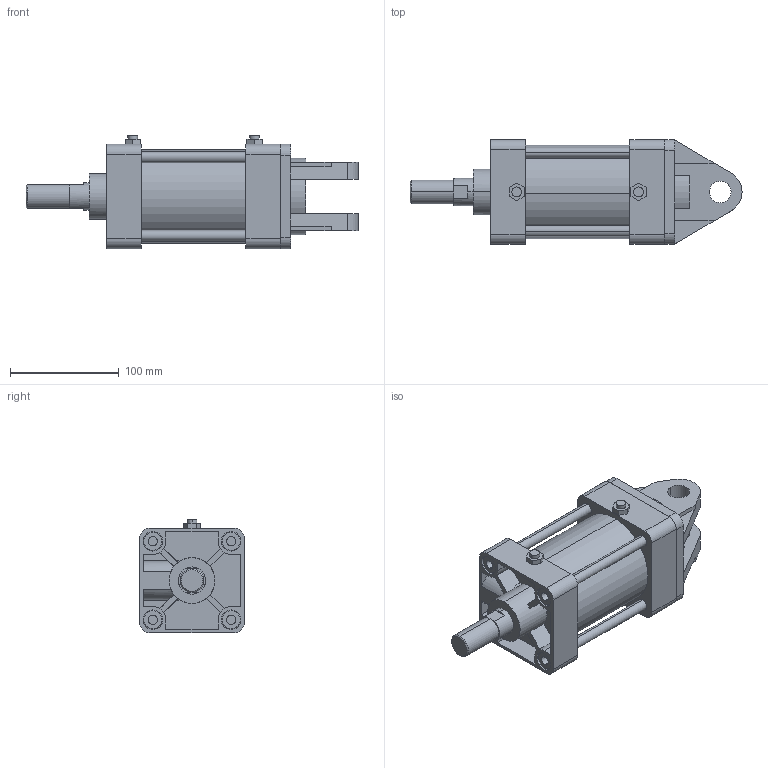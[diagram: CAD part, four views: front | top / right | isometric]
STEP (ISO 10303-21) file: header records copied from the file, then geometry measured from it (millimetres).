
FILE_DESCRIPTION (( 'STEP AP203' ), '1' );
FILE_NAME ('KG2-80-50-W.STEP', '2016-04-01T08:21:35', ( '' ), ( '' ), 'SwSTEP 2.0', 'SolidWorks 2014', '' );
FILE_SCHEMA (( 'CONFIG_CONTROL_DESIGN' ));
Length unit declared in the file: millimetre
Products named in the file (7): K-80-W; KGLH2-80-50; KG2-80-50-W; KG2-80-After
Assembly tree (16 placements, depth 2):
  KG2-80-50-W
    KG2-80-After
    KGLH2-80-50
    (unnamed)
    (unnamed)  x4
    (unnamed)  x8
    K-80-W
Bounding box: 305 x 96 x 104.3 mm (x, y, z)
Volume: 1264930.2 mm3; surface area: 209766.3 mm2
Topology: 16 solids, 16 shells, 360 faces, 867 edges, 554 vertices
Faces by surface type: plane 161, cylinder 141, torus 32, cone 26
Entity records: 9252 total; most frequent: CARTESIAN_POINT 1534, DIRECTION 1473, ORIENTED_EDGE 1354, EDGE_CURVE 677, AXIS2_PLACEMENT_3D 535, VERTEX_POINT 444, LINE 403, VECTOR 403
